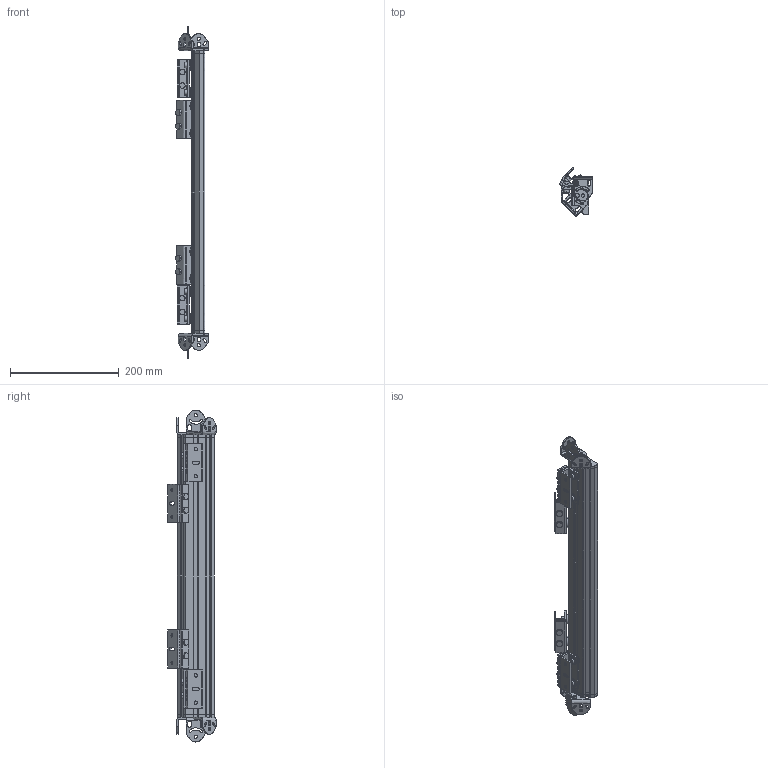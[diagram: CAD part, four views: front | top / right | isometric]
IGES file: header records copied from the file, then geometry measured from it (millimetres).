
Global section: file name: M:\acadjob\Spiegel\UM60-Spiegel\DXF-IGES-Daten für Kunden\IGES\UM60_450.igs; native system: AutoCAD-15.05s (LMS Tech) (Microsoft Windows NT Version 5.1 (x86)); preprocessor: Autodesk IGES Translator R2000i (Jul 31 2000) from Autodesk, Inc.; date: 20070307.113316; units: millimetre
Bounding box: 59.88 x 89.1 x 610.1 mm (x, y, z)
Surface area: 251429.1 mm2 (no closed solid volume)
Topology: 0 solids, 0 shells, 805 faces, 19482 edges, 19482 vertices
Faces by surface type: bspline 805
